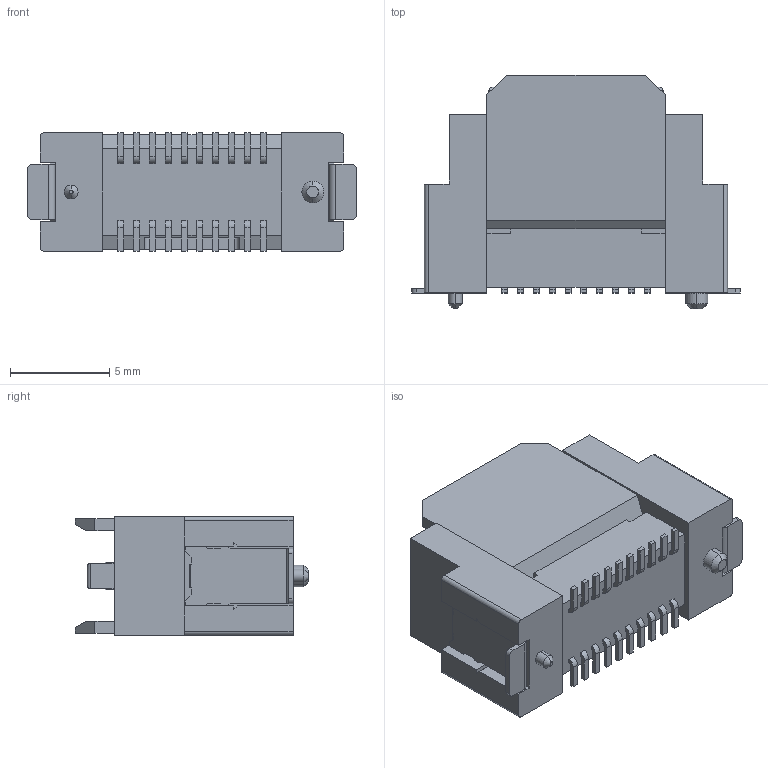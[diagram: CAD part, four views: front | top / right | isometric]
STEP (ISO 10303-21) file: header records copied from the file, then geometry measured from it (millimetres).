
FILE_DESCRIPTION (( 'STEP AP203' ), '1' );
FILE_NAME ('DFJ-PC020-S931110D(M)-FA.STEP', '2021-09-02T02:22:41', ( '' ), ( '' ), 'SwSTEP 2.0', 'SolidWorks 2018', '' );
FILE_SCHEMA (( 'CONFIG_CONTROL_DESIGN' ));
Length unit declared in the file: millimetre
Products named in the file (1): DFJ-PC020-S931110D(M)-FA
Bounding box: 16.6 x 11.8 x 6 mm (x, y, z)
Volume: 560 mm3; surface area: 918.9 mm2
Topology: 1 solids, 1 shells, 456 faces, 1246 edges, 808 vertices
Faces by surface type: plane 352, cylinder 84, cone 12, bspline 6, torus 2
Entity records: 14375 total; most frequent: CARTESIAN_POINT 2725, ORIENTED_EDGE 2484, DIRECTION 2304, EDGE_CURVE 1242, LINE 1010, VECTOR 1010, VERTEX_POINT 808, AXIS2_PLACEMENT_3D 647
